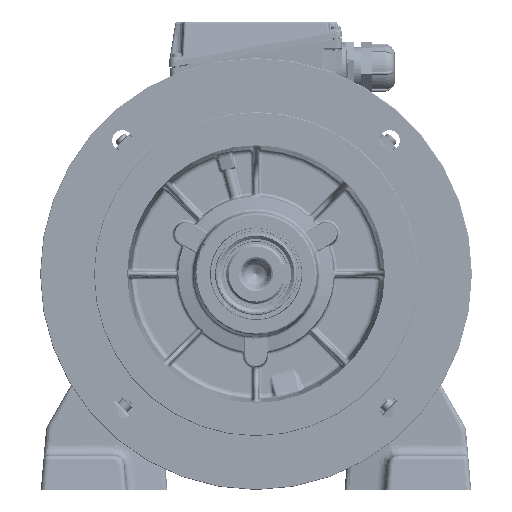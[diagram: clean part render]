
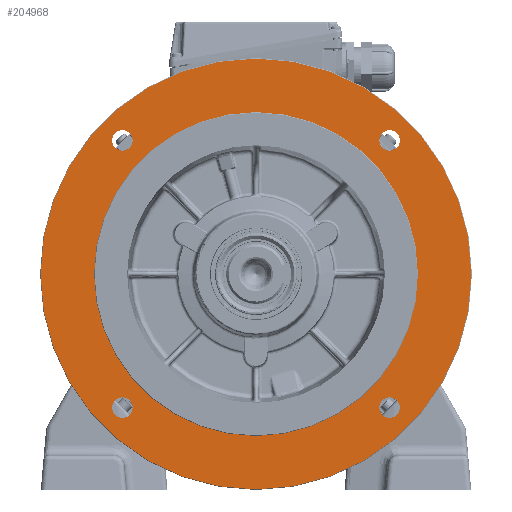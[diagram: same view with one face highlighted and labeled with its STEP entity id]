
A CAD part, front view. The second image highlights one B-rep face of the part: STEP entity #204968.
In plain terms, the highlighted planar face has unit normal (0, -1, 0) as drawn and (-1, 0, 0) by its records, which use the part's own axes.
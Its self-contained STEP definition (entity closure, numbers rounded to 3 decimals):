
#4560=PLANE('',#216839);
#50987=ORIENTED_EDGE('',*,*,#93408,.T.);
#50988=ORIENTED_EDGE('',*,*,#93409,.F.);
#50989=ORIENTED_EDGE('',*,*,#93410,.F.);
#50990=ORIENTED_EDGE('',*,*,#93411,.F.);
#50991=ORIENTED_EDGE('',*,*,#93412,.F.);
#50992=ORIENTED_EDGE('',*,*,#93405,.F.);
#93405=EDGE_CURVE('',#115460,#115460,#128911,.T.);
#93408=EDGE_CURVE('',#115463,#115463,#128914,.T.);
#93409=EDGE_CURVE('',#115464,#115464,#128915,.T.);
#93410=EDGE_CURVE('',#115465,#115465,#128916,.T.);
#93411=EDGE_CURVE('',#115466,#115466,#128917,.T.);
#93412=EDGE_CURVE('',#115467,#115467,#128918,.T.);
#115460=VERTEX_POINT('',#378408);
#115463=VERTEX_POINT('',#378416);
#115464=VERTEX_POINT('',#378418);
#115465=VERTEX_POINT('',#378420);
#115466=VERTEX_POINT('',#378422);
#115467=VERTEX_POINT('',#378424);
#128911=CIRCLE('',#216835,150.);
#128914=CIRCLE('',#216840,199.5);
#128915=CIRCLE('',#216841,9.5);
#128916=CIRCLE('',#216842,9.5);
#128917=CIRCLE('',#216843,9.5);
#128918=CIRCLE('',#216844,9.5);
#138379=EDGE_LOOP('',(#50987));
#138380=EDGE_LOOP('',(#50988));
#138381=EDGE_LOOP('',(#50989));
#138382=EDGE_LOOP('',(#50990));
#138383=EDGE_LOOP('',(#50991));
#138384=EDGE_LOOP('',(#50992));
#149853=FACE_BOUND('',#138379,.T.);
#149854=FACE_BOUND('',#138380,.T.);
#149855=FACE_BOUND('',#138381,.T.);
#149856=FACE_BOUND('',#138382,.T.);
#149857=FACE_BOUND('',#138383,.T.);
#149858=FACE_BOUND('',#138384,.T.);
#204968=ADVANCED_FACE('',(#149853,#149854,#149855,#149856,#149857,#149858),
#4560,.T.);
#216835=AXIS2_PLACEMENT_3D('',#378407,#241526,#241527);
#216839=AXIS2_PLACEMENT_3D('',#378414,#241534,#241535);
#216840=AXIS2_PLACEMENT_3D('',#378415,#241536,#241537);
#216841=AXIS2_PLACEMENT_3D('',#378417,#241538,#241539);
#216842=AXIS2_PLACEMENT_3D('',#378419,#241540,#241541);
#216843=AXIS2_PLACEMENT_3D('',#378421,#241542,#241543);
#216844=AXIS2_PLACEMENT_3D('',#378423,#241544,#241545);
#241526=DIRECTION('',(-1.,0.,0.));
#241527=DIRECTION('',(0.,0.,1.));
#241534=DIRECTION('',(-1.,0.,0.));
#241535=DIRECTION('',(0.,0.,1.));
#241536=DIRECTION('',(-1.,0.,0.));
#241537=DIRECTION('',(0.,0.,1.));
#241538=DIRECTION('',(-1.,0.,0.));
#241539=DIRECTION('',(0.,0.,1.));
#241540=DIRECTION('',(-1.,0.,0.));
#241541=DIRECTION('',(0.,0.,1.));
#241542=DIRECTION('',(-1.,0.,0.));
#241543=DIRECTION('',(0.,0.,1.));
#241544=DIRECTION('',(-1.,0.,0.));
#241545=DIRECTION('',(0.,0.,1.));
#378407=CARTESIAN_POINT('',(-20.,0.,0.));
#378408=CARTESIAN_POINT('',(-20.,0.,150.));
#378414=CARTESIAN_POINT('',(-20.,0.,200.));
#378415=CARTESIAN_POINT('',(-20.,0.,0.));
#378416=CARTESIAN_POINT('',(-20.,0.,199.5));
#378417=CARTESIAN_POINT('',(-20.,-123.744,-123.744));
#378418=CARTESIAN_POINT('',(-20.,-123.744,-114.244));
#378419=CARTESIAN_POINT('',(-20.,123.744,-123.744));
#378420=CARTESIAN_POINT('',(-20.,123.744,-114.244));
#378421=CARTESIAN_POINT('',(-20.,123.744,123.744));
#378422=CARTESIAN_POINT('',(-20.,123.744,133.244));
#378423=CARTESIAN_POINT('',(-20.,-123.744,123.744));
#378424=CARTESIAN_POINT('',(-20.,-123.744,133.244));
